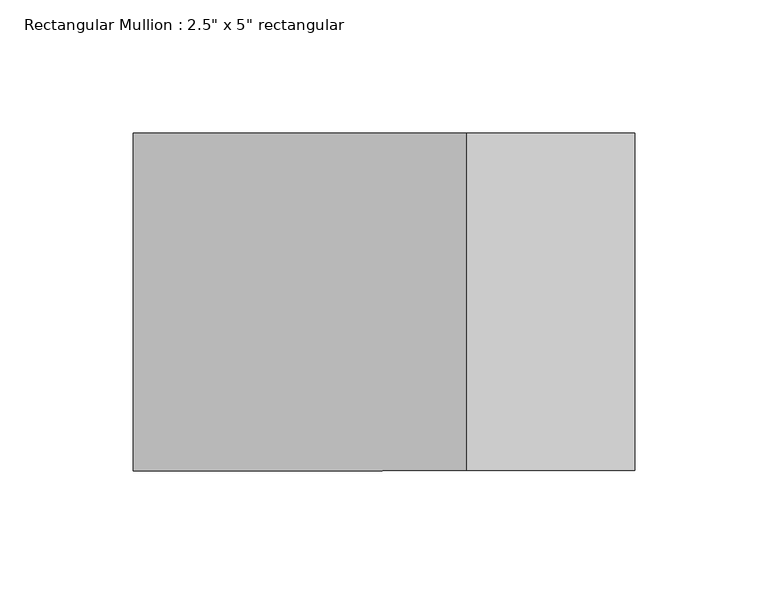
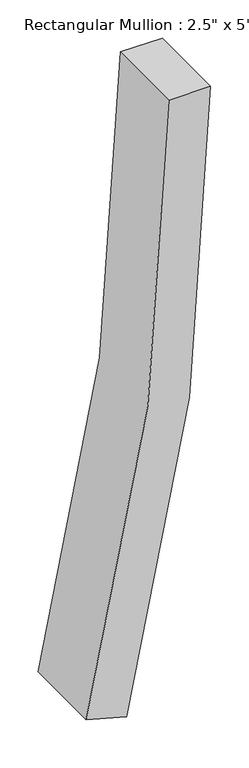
"""IFC4 building model written with IfcOpenShell, lengths in millimetres: member geometry."""

import ifcopenshell
import ifcopenshell.guid

model = None  # the IFC model being written
_history = None  # IfcOwnerHistory: only IFC2X3 demands one
_inside = {}  # id of a spatial element -> (the spatial element, [elements in it])
_under = {}  # id of a project, library or spatial element -> (it, [spatial elements below it])
_declared = {}  # id of a project -> (the project, [libraries it declares])
_typed = {}  # id of a type object -> (the type object, [elements of that type])
_made_of = {}  # id of a material, layer set ... -> (it, [elements and type objects made of it])


def new_model(schema):
    """Start an empty IFC model of exactly this schema.

    Asked for "IFC4X3", IfcOpenShell would pick the latest addendum, in which some entities
    have other attributes; the version numbers below select the first issue.
    IFC2X3 requires an IfcOwnerHistory on every rooted entity: one is made here for all.
    """
    global model, _history
    if schema == "IFC4X3":
        model = ifcopenshell.file(schema_version=(4, 3, 0, 0))
    else:
        model = ifcopenshell.file(schema=schema)
    _inside.clear()
    _under.clear()
    _declared.clear()
    _typed.clear()
    _made_of.clear()
    _history = None
    if model.schema == "IFC2X3":
        org = make("IfcOrganization", Name="unknown")
        user = make(
            "IfcPersonAndOrganization",
            ThePerson=make("IfcPerson", FamilyName="unknown"),
            TheOrganization=org,
        )
        app = make(
            "IfcApplication",
            ApplicationDeveloper=org,
            Version="unknown",
            ApplicationFullName="unknown",
            ApplicationIdentifier="unknown",
        )
        _history = make(
            "IfcOwnerHistory",
            OwningUser=user,
            OwningApplication=app,
            ChangeAction="ADDED",
            CreationDate=0,
        )
    return model


def make(cls, **values):
    """One entity of the class cls with the attributes given. An attribute that is None is left unset."""
    return model.create_entity(
        cls, **{name: value for name, value in values.items() if value is not None}
    )


def rooted(cls, **values):
    """An entity with a GlobalId (a new one), such as an element, a storey or a relation."""
    return make(cls, GlobalId=ifcopenshell.guid.new(), OwnerHistory=_history, **values)


def si_unit(unit_type, name, prefix=None):
    """IfcSIUnit, for example si_unit("LENGTHUNIT", "METRE", prefix="MILLI")."""
    return make("IfcSIUnit", UnitType=unit_type, Prefix=prefix, Name=name)


def assignment(units):
    """IfcUnitAssignment: the units of a project."""
    return None if units is None else make("IfcUnitAssignment", Units=units)


def point(xyz):
    """IfcCartesianPoint."""
    return None if xyz is None else make("IfcCartesianPoint", Coordinates=xyz)


def direction(xyz):
    """IfcDirection."""
    return None if xyz is None else make("IfcDirection", DirectionRatios=xyz)


def frame(location, z_axis=None, x_axis=None):
    """IfcAxis2Placement3D, a coordinate frame: its origin and axes. An axis left out is left unset."""
    return make(
        "IfcAxis2Placement3D",
        Location=point(location),
        Axis=direction(z_axis),
        RefDirection=direction(x_axis),
    )


def frame_2d(location, x_axis=None):
    """IfcAxis2Placement2D, a coordinate frame in the plane: its origin and x axis."""
    return make(
        "IfcAxis2Placement2D", Location=point(location), RefDirection=direction(x_axis)
    )


def origin():
    """The frame at (0, 0, 0) with its axes left unset."""
    return frame((0.0, 0.0, 0.0))


def place(relative_to, where):
    """IfcLocalPlacement: puts the frame where relative to a parent placement (None: the world)."""
    return make(
        "IfcLocalPlacement", PlacementRelTo=relative_to, RelativePlacement=where
    )


def context(
    kind, dimensions, precision=None, world=None, true_north=None, identifier=None
):
    """IfcGeometricRepresentationContext, for example the 3D "Model" context."""
    return make(
        "IfcGeometricRepresentationContext",
        ContextIdentifier=identifier,
        ContextType=kind,
        CoordinateSpaceDimension=dimensions,
        Precision=precision,
        WorldCoordinateSystem=world,
        TrueNorth=true_north,
    )


def project(units=None, contexts=None):
    """IfcProject with its units and contexts."""
    return rooted(
        "IfcProject",
        Name="project",
        RepresentationContexts=contexts,
        UnitsInContext=assignment(units),
    )


def spatial(cls, under=None, at=None, **own):
    """A site, building, storey or space (cls), placed at a placement, below another one or the project."""
    s = rooted(cls, ObjectPlacement=at, **own)
    if under is not None:
        _under.setdefault(under.id(), (under, []))[1].append(s)
    return s


def polyline(points):
    """IfcPolyline through the points."""
    return make("IfcPolyline", Points=[point(p) for p in points])


def circle_curve(where, radius):
    """IfcCircle in the frame where."""
    return make("IfcCircle", Position=where, Radius=radius)


def trimmed(basis, trim1, trim2, sense, master):
    """IfcTrimmedCurve: the piece of a basis curve between two trims."""
    return make(
        "IfcTrimmedCurve",
        BasisCurve=basis,
        Trim1=trim1,
        Trim2=trim2,
        SenseAgreement=sense,
        MasterRepresentation=master,
    )


def segment(curve, same_sense, transition):
    """IfcCompositeCurveSegment."""
    return make(
        "IfcCompositeCurveSegment",
        Transition=transition,
        SameSense=same_sense,
        ParentCurve=curve,
    )


def composite_curve(segments, self_intersect=None):
    """IfcCompositeCurve: segments joined end to end."""
    return make("IfcCompositeCurve", Segments=segments, SelfIntersect=self_intersect)


def outline(outer, holes=None, kind="AREA"):
    """IfcArbitraryClosedProfileDef: a profile drawn as a closed curve; with holes, ...WithVoids."""
    if holes is None:
        return make("IfcArbitraryClosedProfileDef", ProfileType=kind, OuterCurve=outer)
    return make(
        "IfcArbitraryProfileDefWithVoids",
        ProfileType=kind,
        OuterCurve=outer,
        InnerCurves=holes,
    )


def extrude(swept, where, along, depth):
    """IfcExtrudedAreaSolid: the profile swept, set in the frame where, extruded along a direction by depth."""
    return make(
        "IfcExtrudedAreaSolid",
        SweptArea=swept,
        Position=where,
        ExtrudedDirection=direction(along),
        Depth=depth,
    )


def shape(context_of_items, identifier, shape_type, items):
    """IfcShapeRepresentation: the items that make up one representation, for example the "Body"."""
    return make(
        "IfcShapeRepresentation",
        ContextOfItems=context_of_items,
        RepresentationIdentifier=identifier,
        RepresentationType=shape_type,
        Items=items,
    )


def source(mapping_origin, context_of_items, identifier, shape_type, items):
    """IfcRepresentationMap: a shape defined once, which mapped items show again and again."""
    return make(
        "IfcRepresentationMap",
        MappingOrigin=mapping_origin,
        MappedRepresentation=shape(context_of_items, identifier, shape_type, items),
    )


def transform(
    local_origin,
    x_axis=None,
    y_axis=None,
    z_axis=None,
    scale=None,
    scale2=None,
    scale3=None,
    uniform=True,
):
    """IfcCartesianTransformationOperator3D, or its non-uniform kind. x_axis, y_axis, z_axis: its Axis1, 2, 3."""
    if uniform:
        return make(
            "IfcCartesianTransformationOperator3D",
            Axis1=direction(x_axis),
            Axis2=direction(y_axis),
            LocalOrigin=point(local_origin),
            Scale=scale,
            Axis3=direction(z_axis),
        )
    return make(
        "IfcCartesianTransformationOperator3DnonUniform",
        Axis1=direction(x_axis),
        Axis2=direction(y_axis),
        LocalOrigin=point(local_origin),
        Scale=scale,
        Axis3=direction(z_axis),
        Scale2=scale2,
        Scale3=scale3,
    )


def mapped(mapping_source, mapping_target):
    """IfcMappedItem: shows the shape of a source again, moved by a transform."""
    return make(
        "IfcMappedItem", MappingSource=mapping_source, MappingTarget=mapping_target
    )


def made_of(thing, what):
    """Note that an element or type object is made of a material, layer set ...; save() writes the relation."""
    if what is not None:
        _made_of.setdefault(what.id(), (what, []))[1].append(thing)
    return thing


def element(
    cls,
    number,
    at=None,
    inside=None,
    cuts=None,
    type_object=None,
    material=None,
    context=None,
    identifier="Body",
    shape_type=None,
    held_by="IfcProductDefinitionShape",
    body=None,
    shapes=None,
    **own,
):
    """One element of the class cls, such as IfcWall. Its Tag is "e" and its number.

    at: its placement. inside: the storey or other place that contains it. cuts: it is an
    opening in that element (IfcRelVoidsElement). A single representation is given by context,
    identifier, shape_type and body (its items); several are given by shapes. held_by: the class
    of the entity that holds the representations. save() writes the other relations.
    """
    e = rooted(cls, Tag="e%d" % number, ObjectPlacement=at, **own)
    if body is not None:
        shapes = [shape(context, identifier, shape_type, body)]
    if shapes is not None:
        e.Representation = make(held_by, Representations=shapes)
    if inside is not None:
        _inside.setdefault(inside.id(), (inside, []))[1].append(e)
    if cuts is not None:
        rooted(
            "IfcRelVoidsElement", RelatingBuildingElement=cuts, RelatedOpeningElement=e
        )
    if type_object is not None:
        _typed.setdefault(type_object.id(), (type_object, []))[1].append(e)
    return made_of(e, material)


def aggregate(whole, parts):
    """IfcRelAggregates: a whole, such as a stair, and the parts it consists of."""
    return rooted("IfcRelAggregates", RelatingObject=whole, RelatedObjects=parts)


def save(model, path):
    """Write the relations noted so far, then the file.

    IfcRelAggregates (storeys below a building ...), IfcRelContainedInSpatialStructure (elements
    in a storey), IfcRelDefinesByType, IfcRelAssociatesMaterial and IfcRelDeclares: one each for
    every whole, place, type object, material and project.
    """
    for whole, parts in _under.values():
        aggregate(whole, parts)
    for where, things in _inside.values():
        rooted(
            "IfcRelContainedInSpatialStructure",
            RelatedElements=things,
            RelatingStructure=where,
        )
    for kind, things in _typed.values():
        rooted("IfcRelDefinesByType", RelatedObjects=things, RelatingType=kind)
    for what, things in _made_of.values():
        rooted("IfcRelAssociatesMaterial", RelatedObjects=things, RelatingMaterial=what)
    for by, libraries in _declared.values():
        rooted("IfcRelDeclares", RelatingContext=by, RelatedDefinitions=libraries)
    model.write(path)


def member_9ba9524c(model_context):
    return source(origin(), model_context, "Body", "SweptSolid", [
        extrude(outline(composite_curve([segment(trimmed(circle_curve(frame_2d((0.0, -3722.1588985)), 3722.1588985), [point((-965.3592063, -127.3642634))], [point((0.0, 0.0))], False, "CARTESIAN"), True, "CONTINUOUS"), segment(polyline([(0.0, 0.0), (0.0, -63.5)]), True, "CONTINUOUS"), segment(trimmed(circle_curve(frame_2d((0.0, -3722.1588985)), 3658.6588985), [point((0.0, -63.5))], [point((-948.8901862, -188.6914301))], True, "CARTESIAN"), True, "CONTINUOUS"), segment(polyline([(-948.8901862, -188.6914301), (-965.3592063, -127.3642634)]), True, "CONTINUOUS")], self_intersect=False)), frame((0.0, -63.5, 0.0), z_axis=(0.0, 1.0, 0.0), x_axis=(0.0, 0.0, 1.0)), (0.0, 0.0, 1.0), 127.0),
    ])


if __name__ == "__main__":
    model = new_model("IFC4")
    model_context = context("Model", 3, world=origin())
    ifc_project = project(units=[si_unit("LENGTHUNIT", "METRE", prefix="MILLI")], contexts=[model_context])
    site = spatial("IfcSite", under=ifc_project)
    building = spatial("IfcBuilding", under=site)
    placement = place(None, origin())
    member_shape = member_9ba9524c(model_context)
    element("IfcMember", 1, ObjectType="Rectangular Mullion : 2.5\" x 5\" rectangular", at=placement, inside=building, context=model_context, shape_type="MappedRepresentation", body=[
        mapped(member_shape, transform((0.0, 0.0, 0.0), x_axis=(1.0, 0.0, 0.0), y_axis=(0.0, 1.0, 0.0), z_axis=(0.0, 0.0, 1.0))),
    ])
    save(model, "model.ifc")
